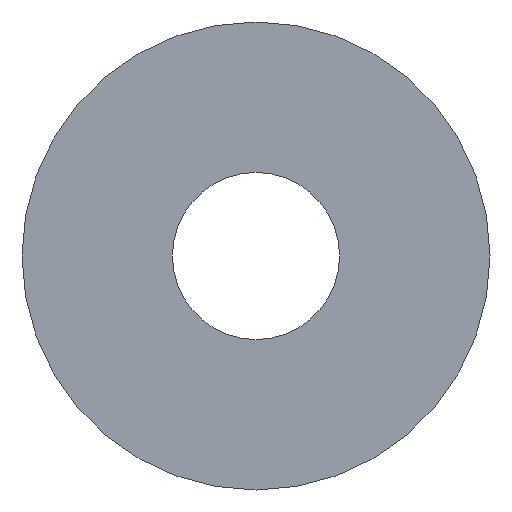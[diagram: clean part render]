
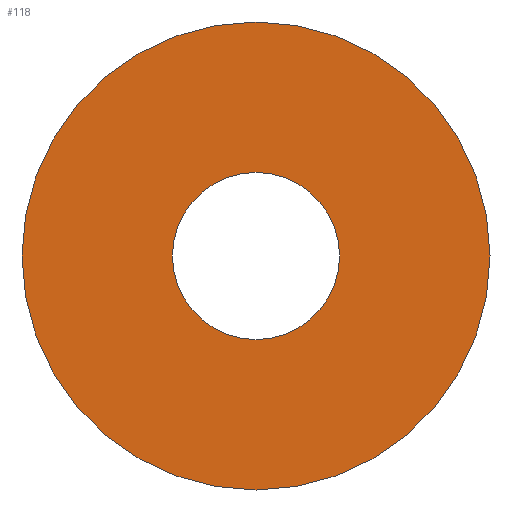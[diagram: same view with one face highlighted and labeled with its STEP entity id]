
A CAD part, front view. The second image highlights one B-rep face of the part: STEP entity #118.
In plain terms, the highlighted planar face has unit normal (0, -1, 0).
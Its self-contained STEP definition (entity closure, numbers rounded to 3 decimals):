
#21 = PLANE ( 'NONE',  #341 ) ;
#26 = CIRCLE ( 'NONE', #297, 7. ) ;
#44 = CARTESIAN_POINT ( 'NONE',  ( 0., -2.6, 2.5 ) ) ;
#51 = CARTESIAN_POINT ( 'NONE',  ( 0., -2.6, -2.5 ) ) ;
#95 = AXIS2_PLACEMENT_3D ( 'NONE', #326, #325, #328 ) ;
#100 = CARTESIAN_POINT ( 'NONE',  ( 0., -2.6, 0. ) ) ;
#118 = ADVANCED_FACE ( 'NONE', ( #286, #168 ), #21, .T. ) ;
#121 = CARTESIAN_POINT ( 'NONE',  ( 0., -2.6, 0. ) ) ;
#134 = DIRECTION ( 'NONE',  ( 0., -1., 0. ) ) ;
#147 = AXIS2_PLACEMENT_3D ( 'NONE', #277, #337, #335 ) ;
#168 = FACE_OUTER_BOUND ( 'NONE', #278, .T. ) ;
#169 = VERTEX_POINT ( 'NONE', #393 ) ;
#190 = DIRECTION ( 'NONE',  ( 0., 1., 0. ) ) ;
#195 = ORIENTED_EDGE ( 'NONE', *, *, #260, .T. ) ;
#199 = ORIENTED_EDGE ( 'NONE', *, *, #296, .F. ) ;
#206 = EDGE_LOOP ( 'NONE', ( #314, #195 ) ) ;
#226 = DIRECTION ( 'NONE',  ( 0., 1., 0. ) ) ;
#229 = VERTEX_POINT ( 'NONE', #51 ) ;
#231 = CIRCLE ( 'NONE', #147, 7. ) ;
#238 = EDGE_CURVE ( 'NONE', #255, #229, #272, .T. ) ;
#255 = VERTEX_POINT ( 'NONE', #44 ) ;
#260 = EDGE_CURVE ( 'NONE', #229, #255, #408, .T. ) ;
#262 = VERTEX_POINT ( 'NONE', #395 ) ;
#263 = CARTESIAN_POINT ( 'NONE',  ( -7., -2.6, 0. ) ) ;
#272 = CIRCLE ( 'NONE', #400, 2.5 ) ;
#277 = CARTESIAN_POINT ( 'NONE',  ( 0., -2.6, 0. ) ) ;
#278 = EDGE_LOOP ( 'NONE', ( #321, #199 ) ) ;
#285 = EDGE_CURVE ( 'NONE', #262, #169, #231, .T. ) ;
#286 = FACE_BOUND ( 'NONE', #206, .T. ) ;
#294 = DIRECTION ( 'NONE',  ( 0., 0., -1. ) ) ;
#296 = EDGE_CURVE ( 'NONE', #169, #262, #26, .T. ) ;
#297 = AXIS2_PLACEMENT_3D ( 'NONE', #121, #190, #298 ) ;
#298 = DIRECTION ( 'NONE',  ( 0., 0., 1. ) ) ;
#314 = ORIENTED_EDGE ( 'NONE', *, *, #238, .T. ) ;
#321 = ORIENTED_EDGE ( 'NONE', *, *, #285, .F. ) ;
#325 = DIRECTION ( 'NONE',  ( 0., 1., 0. ) ) ;
#326 = CARTESIAN_POINT ( 'NONE',  ( 0., -2.6, 0. ) ) ;
#328 = DIRECTION ( 'NONE',  ( 0., 0., 1. ) ) ;
#335 = DIRECTION ( 'NONE',  ( 0., 0., 1. ) ) ;
#337 = DIRECTION ( 'NONE',  ( 0., 1., 0. ) ) ;
#341 = AXIS2_PLACEMENT_3D ( 'NONE', #263, #134, #294 ) ;
#347 = DIRECTION ( 'NONE',  ( 0., 0., 1. ) ) ;
#393 = CARTESIAN_POINT ( 'NONE',  ( 0., -2.6, -7. ) ) ;
#395 = CARTESIAN_POINT ( 'NONE',  ( 0., -2.6, 7. ) ) ;
#400 = AXIS2_PLACEMENT_3D ( 'NONE', #100, #226, #347 ) ;
#408 = CIRCLE ( 'NONE', #95, 2.5 ) ;
